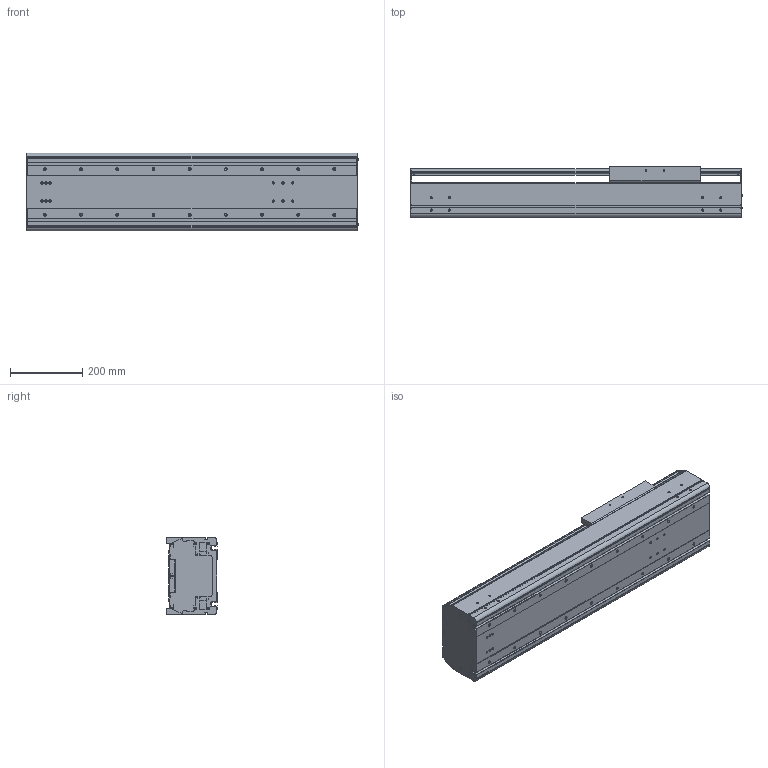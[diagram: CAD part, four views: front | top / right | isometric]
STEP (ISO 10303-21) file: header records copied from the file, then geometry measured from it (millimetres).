
FILE_DESCRIPTION((''),'2;1');
FILE_NAME('BE60G-ST-M_N-50_IGS_PRT','2017-06-18T',(' '),(''),'PRO/ENGINEER BY PARAMETRIC TECHNOLOGY CORPORATION, 2015030','PRO/ENGINEER BY PARAMETRIC TECHNOLOGY CORPORATION, 2015030','');
FILE_SCHEMA(('CONFIG_CONTROL_DESIGN'));
Length unit declared in the file: millimetre
Products named in the file (1): BE60G-ST-M_N-50_IGS_PRT
Bounding box: 917.4 x 140 x 214 mm (x, y, z)
Volume: 7737477.9 mm3; surface area: 2057316.5 mm2
Topology: 2 solids, 116 shells, 1418 faces, 3926 edges, 2573 vertices
Faces by surface type: cylinder 696, plane 586, cone 88, sphere 24, torus 24
Entity records: 46840 total; most frequent: CARTESIAN_POINT 10160, DIRECTION 7782, ORIENTED_EDGE 7232, EDGE_CURVE 3840, AXIS2_PLACEMENT_3D 2873, VERTEX_POINT 2572, VECTOR 2036, LINE 2036
